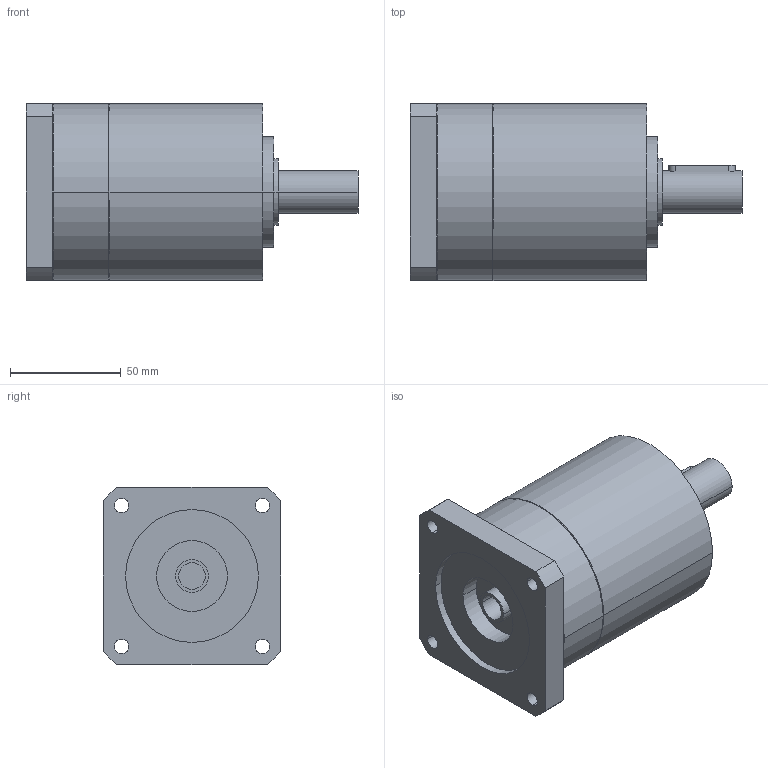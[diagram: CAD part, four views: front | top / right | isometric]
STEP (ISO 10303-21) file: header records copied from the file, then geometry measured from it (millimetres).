
FILE_DESCRIPTION(('CoCreate Modeling STEP Export'),'2;1');
FILE_NAME('GPR100_ig-3-4-5-6_19_B14_12.7_P19.stp','2014-08-26T10:06:30',(''),(''),'CoCreate Modeling STEP processor for AP214 (Solid Model)','CoCreate Modeling 16.00C 25-Feb-2009 (C) Parametric Technology GmbH','');
FILE_SCHEMA(('AUTOMOTIVE_DESIGN { 1 0 10303 214 1 1 1 1 }'));
Length unit declared in the file: millimetre
Products named in the file (2): GPR100_ig-3-4-5-6_19_B14_12.7_P19
Assembly tree (1 placements, depth 2):
  GPR100_ig-3-4-5-6_19_B14_12.7_P19
    GPR100_ig-3-4-5-6_19_B14_12.7_P19
Bounding box: 150 x 80 x 80 mm (x, y, z)
Volume: 552103.6 mm3; surface area: 48942.8 mm2
Topology: 1 solids, 1 shells, 82 faces, 219 edges, 155 vertices
Faces by surface type: cylinder 50, plane 26, cone 6
Entity records: 2234 total; most frequent: ORIENTED_EDGE 434, CARTESIAN_POINT 407, DIRECTION 302, EDGE_CURVE 217, VERTEX_POINT 155, AXIS2_PLACEMENT_3D 114, EDGE_LOOP 108, FACE_OUTER_BOUND 82
